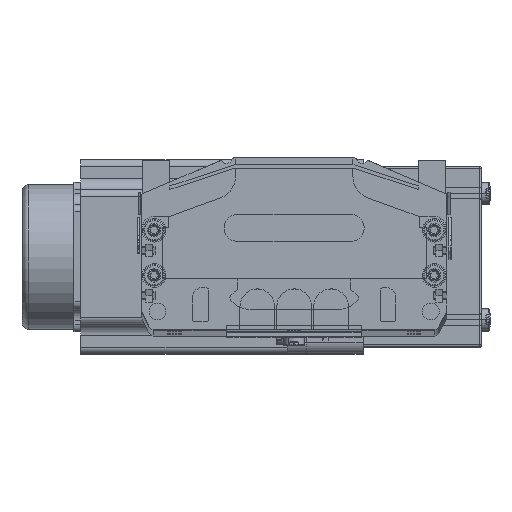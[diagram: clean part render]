
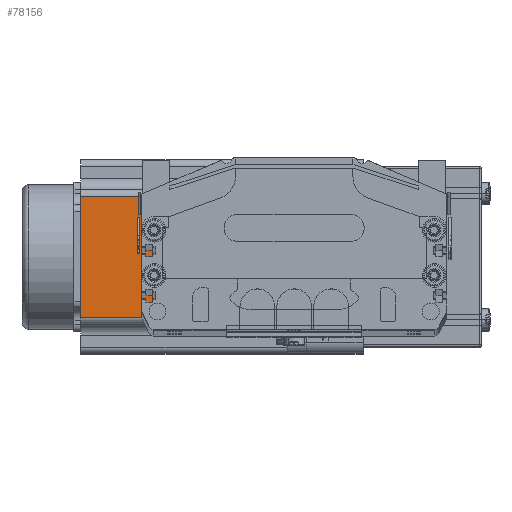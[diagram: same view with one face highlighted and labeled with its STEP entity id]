
A CAD part, top view. The second image highlights one B-rep face of the part: STEP entity #78156.
In plain terms, the highlighted planar face has unit normal (0, 0, 1) as drawn and (-1, 0, 0) by its records, which use the part's own axes.
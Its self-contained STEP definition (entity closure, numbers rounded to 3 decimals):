
#51853 = DIRECTION ( 'NONE',  ( 0., 0., -1. ) ) ;
#51854 = VECTOR ( 'NONE', #51853, 1000. ) ;
#51855 = CARTESIAN_POINT ( 'NONE',  ( 0., 69.74, 91.5 ) ) ;
#51922 = LINE ( 'NONE', #51855, #51854 ) ;
#52046 = CARTESIAN_POINT ( 'NONE',  ( 0., 0., 91.5 ) ) ;
#52047 = AXIS2_PLACEMENT_3D ( 'NONE', #52046, #52065, #52064 ) ;
#52064 = DIRECTION ( 'NONE',  ( 0., 0., -1. ) ) ;
#52065 = DIRECTION ( 'NONE',  ( 1., 0., 0. ) ) ;
#52069 = PLANE ( 'NONE',  #52047 ) ;
#52070 = CARTESIAN_POINT ( 'NONE',  ( 0., 16.16, 91.5 ) ) ;
#52071 = CARTESIAN_POINT ( 'NONE',  ( 0., 69.74, 91.5 ) ) ;
#52078 = CARTESIAN_POINT ( 'NONE',  ( 0., 69.74, 0. ) ) ;
#52080 = FACE_OUTER_BOUND ( 'NONE', #78396, .T. ) ;
#52081 = CARTESIAN_POINT ( 'NONE',  ( 0., 16.16, 0. ) ) ;
#52291 = CARTESIAN_POINT ( 'NONE',  ( 0., 0., 91.5 ) ) ;
#52292 = LINE ( 'NONE', #52291, #52404 ) ;
#52403 = DIRECTION ( 'NONE',  ( 0., -1., 0. ) ) ;
#52404 = VECTOR ( 'NONE', #52403, 1000. ) ;
#52487 = CARTESIAN_POINT ( 'NONE',  ( 0., 0., 0. ) ) ;
#52488 = LINE ( 'NONE', #52487, #52617 ) ;
#52492 = DIRECTION ( 'NONE',  ( 0., 0., 1. ) ) ;
#52493 = VECTOR ( 'NONE', #52492, 1000. ) ;
#52494 = CARTESIAN_POINT ( 'NONE',  ( 0., 16.16, 91.5 ) ) ;
#52495 = LINE ( 'NONE', #52494, #52493 ) ;
#52616 = DIRECTION ( 'NONE',  ( 0., -1., 0. ) ) ;
#52617 = VECTOR ( 'NONE', #52616, 1000. ) ;
#78135 = EDGE_CURVE ( 'NONE', #78157, #78154, #51922, .T. ) ;
#78154 = VERTEX_POINT ( 'NONE', #52078 ) ;
#78155 = VERTEX_POINT ( 'NONE', #52081 ) ;
#78156 = ADVANCED_FACE ( 'NONE', ( #52080 ), #52069, .F. ) ;
#78157 = VERTEX_POINT ( 'NONE', #52071 ) ;
#78158 = VERTEX_POINT ( 'NONE', #52070 ) ;
#78159 = ORIENTED_EDGE ( 'NONE', *, *, #78395, .T. ) ;
#78304 = EDGE_CURVE ( 'NONE', #78157, #78158, #52292, .T. ) ;
#78326 = ORIENTED_EDGE ( 'NONE', *, *, #78135, .T. ) ;
#78395 = EDGE_CURVE ( 'NONE', #78155, #78158, #52495, .T. ) ;
#78396 = EDGE_LOOP ( 'NONE', ( #78402, #78159, #78401, #78326 ) ) ;
#78401 = ORIENTED_EDGE ( 'NONE', *, *, #78304, .F. ) ;
#78402 = ORIENTED_EDGE ( 'NONE', *, *, #78403, .T. ) ;
#78403 = EDGE_CURVE ( 'NONE', #78154, #78155, #52488, .T. ) ;
